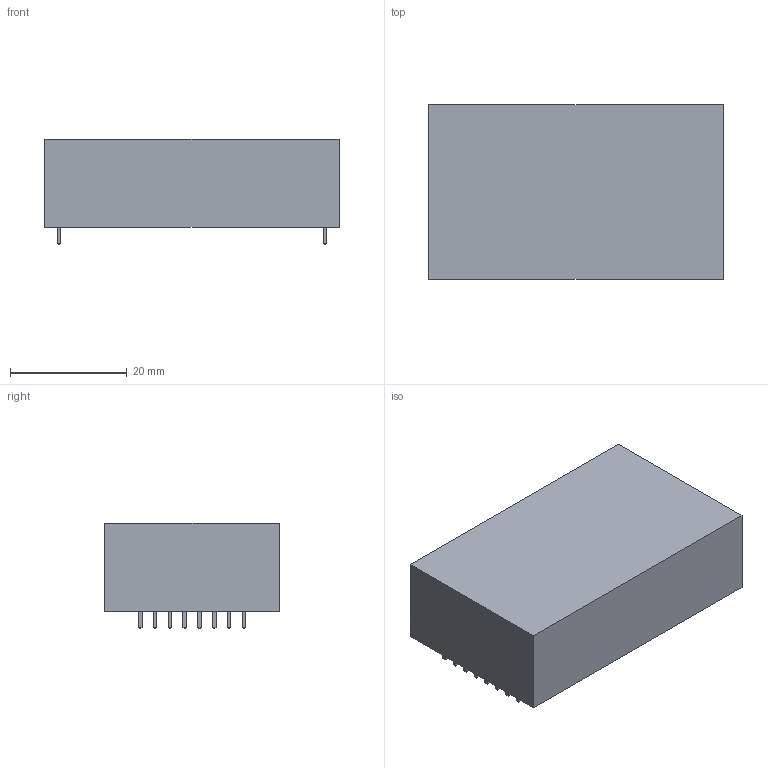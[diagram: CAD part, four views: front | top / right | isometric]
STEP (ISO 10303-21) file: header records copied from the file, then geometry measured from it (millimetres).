
FILE_DESCRIPTION(('FreeCAD Model'),'2;1');
FILE_NAME('C:/Users/PeterH/Desktop/Ag7100.step','2017-03-24T14:26:30',( 'Author'),(''),'Open CASCADE STEP processor 6.8','FreeCAD','Unknown' );
FILE_SCHEMA(('AUTOMOTIVE_DESIGN_CC2 { 1 2 10303 214 -1 1 5 4 }'));
Length unit declared in the file: millimetre
Products named in the file (2): ASSEMBLY; Chamfer
Assembly tree (1 placements, depth 2):
  ASSEMBLY
    Chamfer
Bounding box: 50.6 x 30 x 18.14 mm (x, y, z)
Volume: 22996.1 mm3; surface area: 5565.7 mm2
Topology: 1 solids, 1 shells, 123 faces, 272 edges, 164 vertices
Faces by surface type: plane 123
Entity records: 6825 total; most frequent: CARTESIAN_POINT 1105, DIRECTION 1066, LINE 816, VECTOR 816, ORIENTED_EDGE 544, PCURVE 544, DEFINITIONAL_REPRESENTATION 544, EDGE_CURVE 272
